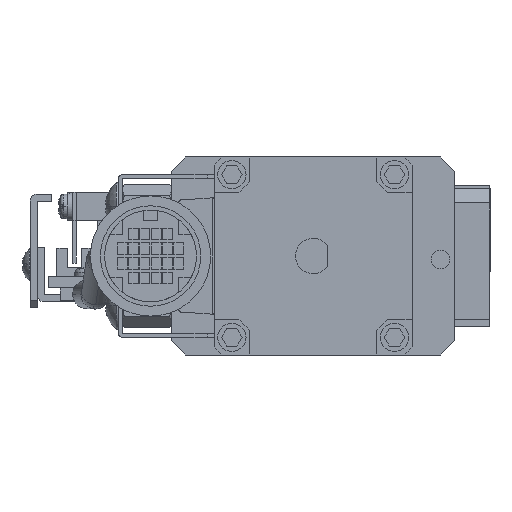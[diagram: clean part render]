
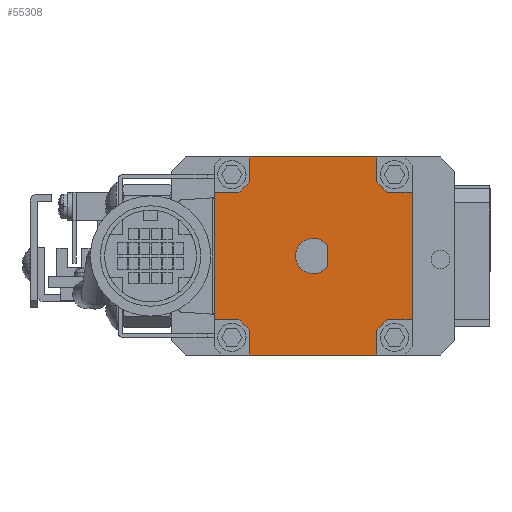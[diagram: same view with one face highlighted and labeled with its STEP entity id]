
A CAD part, left-side view. The second image highlights one B-rep face of the part: STEP entity #55308.
In plain terms, the highlighted planar face has unit normal (-1, 0, 0).
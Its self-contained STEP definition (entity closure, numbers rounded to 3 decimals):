
#565 = ORIENTED_EDGE ( 'NONE', *, *, #42193, .T. ) ;
#1181 = DIRECTION ( 'NONE',  ( 0., 0., -1. ) ) ;
#2111 = CARTESIAN_POINT ( 'NONE',  ( -38.752, 11., 125.561 ) ) ;
#3567 = VERTEX_POINT ( 'NONE', #60114 ) ;
#3725 = VERTEX_POINT ( 'NONE', #62732 ) ;
#4233 = EDGE_CURVE ( 'NONE', #48492, #14182, #49712, .T. ) ;
#4567 = DIRECTION ( 'NONE',  ( 0., 0., -1. ) ) ;
#5754 = ORIENTED_EDGE ( 'NONE', *, *, #55662, .T. ) ;
#5968 = LINE ( 'NONE', #31386, #9881 ) ;
#6390 = CARTESIAN_POINT ( 'NONE',  ( -38.752, 11., 143.561 ) ) ;
#7058 = DIRECTION ( 'NONE',  ( 0., 0.745, 0.667 ) ) ;
#7238 = DIRECTION ( 'NONE',  ( 0., 0., -1. ) ) ;
#7429 = EDGE_CURVE ( 'NONE', #36319, #32231, #36216, .T. ) ;
#7688 = AXIS2_PLACEMENT_3D ( 'NONE', #15703, #30941, #61936 ) ;
#8156 = CARTESIAN_POINT ( 'NONE',  ( -38.752, 35.5, 143.561 ) ) ;
#8297 = DIRECTION ( 'NONE',  ( 0., -1., 0. ) ) ;
#8646 = CARTESIAN_POINT ( 'NONE',  ( -38.752, 16., 120.561 ) ) ;
#9190 = ORIENTED_EDGE ( 'NONE', *, *, #23213, .F. ) ;
#9879 = CARTESIAN_POINT ( 'NONE',  ( -38.752, 23., 136.061 ) ) ;
#9881 = VECTOR ( 'NONE', #1181, 1000. ) ;
#10684 = LINE ( 'NONE', #15477, #25741 ) ;
#11368 = EDGE_LOOP ( 'NONE', ( #28569, #565, #47234, #9190, #28153, #30904, #48839, #54858, #17471, #5754, #52494, #27003, #54535, #62389, #48260, #40650 ) ) ;
#11944 = CARTESIAN_POINT ( 'NONE',  ( -38.752, 39., 143.561 ) ) ;
#12188 = DIRECTION ( 'NONE',  ( 0., 0., 1. ) ) ;
#12496 = CARTESIAN_POINT ( 'NONE',  ( -38.752, 25., 134.561 ) ) ;
#12557 = LINE ( 'NONE', #54052, #64782 ) ;
#13215 = DIRECTION ( 'NONE',  ( 1., 0., 0. ) ) ;
#13440 = DIRECTION ( 'NONE',  ( 0., 0.667, -0.745 ) ) ;
#13907 = EDGE_CURVE ( 'NONE', #48492, #14182, #35907, .T. ) ;
#14182 = VERTEX_POINT ( 'NONE', #9879 ) ;
#14974 = EDGE_CURVE ( 'NONE', #65564, #26853, #35434, .T. ) ;
#15411 = DIRECTION ( 'NONE',  ( 0., -0.667, 0.745 ) ) ;
#15457 = CIRCLE ( 'NONE', #59288, 19. ) ;
#15477 = CARTESIAN_POINT ( 'NONE',  ( -38.752, 11., 143.561 ) ) ;
#15703 = CARTESIAN_POINT ( 'NONE',  ( -38.752, 54.698, 104.863 ) ) ;
#16143 = VECTOR ( 'NONE', #63130, 1000. ) ;
#16379 = CARTESIAN_POINT ( 'NONE',  ( -38.752, 1.836, 111.397 ) ) ;
#17471 = ORIENTED_EDGE ( 'NONE', *, *, #56593, .T. ) ;
#17912 = CARTESIAN_POINT ( 'NONE',  ( -38.752, 14.5, 125.561 ) ) ;
#18036 = CARTESIAN_POINT ( 'NONE',  ( -38.752, 35.5, 125.561 ) ) ;
#18098 = FACE_BOUND ( 'NONE', #41458, .T. ) ;
#18220 = LINE ( 'NONE', #53232, #36428 ) ;
#18747 = CARTESIAN_POINT ( 'NONE',  ( -38.752, 35.5, 143.561 ) ) ;
#19065 = DIRECTION ( 'NONE',  ( 0., -1., 0. ) ) ;
#20258 = LINE ( 'NONE', #32716, #63825 ) ;
#22644 = CARTESIAN_POINT ( 'NONE',  ( -38.752, 39., 125.561 ) ) ;
#22849 = DIRECTION ( 'NONE',  ( 1., 0., 0. ) ) ;
#23213 = EDGE_CURVE ( 'NONE', #3725, #26853, #12557, .T. ) ;
#23943 = EDGE_CURVE ( 'NONE', #35225, #27141, #18220, .T. ) ;
#24081 = DIRECTION ( 'NONE',  ( 0., 1., 0. ) ) ;
#24202 = EDGE_CURVE ( 'NONE', #38849, #27141, #34849, .T. ) ;
#24782 = VECTOR ( 'NONE', #24081, 1000. ) ;
#25741 = VECTOR ( 'NONE', #51270, 1000. ) ;
#26853 = VERTEX_POINT ( 'NONE', #29742 ) ;
#27003 = ORIENTED_EDGE ( 'NONE', *, *, #38316, .F. ) ;
#27141 = VERTEX_POINT ( 'NONE', #2111 ) ;
#27215 = EDGE_CURVE ( 'NONE', #49474, #61655, #15457, .T. ) ;
#28153 = ORIENTED_EDGE ( 'NONE', *, *, #46755, .T. ) ;
#28499 = DIRECTION ( 'NONE',  ( 0., 1., 0. ) ) ;
#28569 = ORIENTED_EDGE ( 'NONE', *, *, #60882, .T. ) ;
#28629 = EDGE_CURVE ( 'NONE', #61655, #47829, #64002, .T. ) ;
#28913 = CARTESIAN_POINT ( 'NONE',  ( -38.752, 39., 125.561 ) ) ;
#29742 = CARTESIAN_POINT ( 'NONE',  ( -38.752, 16., 148.561 ) ) ;
#30904 = ORIENTED_EDGE ( 'NONE', *, *, #27215, .T. ) ;
#30941 = DIRECTION ( 'NONE',  ( 1., 0., 0. ) ) ;
#31386 = CARTESIAN_POINT ( 'NONE',  ( -38.752, 34., 148.561 ) ) ;
#32231 = VERTEX_POINT ( 'NONE', #50734 ) ;
#32716 = CARTESIAN_POINT ( 'NONE',  ( -38.752, 39., 125.561 ) ) ;
#33142 = DIRECTION ( 'NONE',  ( 0., -1., 0. ) ) ;
#33460 = CARTESIAN_POINT ( 'NONE',  ( -38.752, 23., 133.061 ) ) ;
#34335 = VERTEX_POINT ( 'NONE', #48579 ) ;
#34849 = LINE ( 'NONE', #49360, #41933 ) ;
#35100 = VERTEX_POINT ( 'NONE', #40849 ) ;
#35225 = VERTEX_POINT ( 'NONE', #6390 ) ;
#35434 = LINE ( 'NONE', #39121, #53671 ) ;
#35907 = CIRCLE ( 'NONE', #65491, 2.5 ) ;
#36216 = LINE ( 'NONE', #47519, #53627 ) ;
#36319 = VERTEX_POINT ( 'NONE', #8646 ) ;
#36428 = VECTOR ( 'NONE', #7238, 1000. ) ;
#37660 = DIRECTION ( 'NONE',  ( 1., 0., 0. ) ) ;
#38316 = EDGE_CURVE ( 'NONE', #36319, #35100, #61188, .T. ) ;
#38849 = VERTEX_POINT ( 'NONE', #17912 ) ;
#39121 = CARTESIAN_POINT ( 'NONE',  ( -38.752, 16., 145.061 ) ) ;
#39133 = VERTEX_POINT ( 'NONE', #18036 ) ;
#39897 = CIRCLE ( 'NONE', #50793, 19. ) ;
#40266 = VECTOR ( 'NONE', #51146, 1000. ) ;
#40382 = CARTESIAN_POINT ( 'NONE',  ( -38.752, 48.164, 111.397 ) ) ;
#40650 = ORIENTED_EDGE ( 'NONE', *, *, #23943, .F. ) ;
#40849 = CARTESIAN_POINT ( 'NONE',  ( -38.752, 34., 120.561 ) ) ;
#41458 = EDGE_LOOP ( 'NONE', ( #41610, #56921 ) ) ;
#41610 = ORIENTED_EDGE ( 'NONE', *, *, #4233, .F. ) ;
#41933 = VECTOR ( 'NONE', #19065, 1000. ) ;
#42193 = EDGE_CURVE ( 'NONE', #34335, #65564, #61746, .T. ) ;
#45621 = AXIS2_PLACEMENT_3D ( 'NONE', #59180, #13215, #13440 ) ;
#46599 = VECTOR ( 'NONE', #28499, 1000. ) ;
#46755 = EDGE_CURVE ( 'NONE', #3725, #49474, #5968, .T. ) ;
#47234 = ORIENTED_EDGE ( 'NONE', *, *, #14974, .T. ) ;
#47519 = CARTESIAN_POINT ( 'NONE',  ( -38.752, 16., 120.561 ) ) ;
#47776 = LINE ( 'NONE', #50328, #58883 ) ;
#47829 = VERTEX_POINT ( 'NONE', #11944 ) ;
#48260 = ORIENTED_EDGE ( 'NONE', *, *, #24202, .T. ) ;
#48492 = VERTEX_POINT ( 'NONE', #33460 ) ;
#48579 = CARTESIAN_POINT ( 'NONE',  ( -38.752, 14.5, 143.561 ) ) ;
#48839 = ORIENTED_EDGE ( 'NONE', *, *, #28629, .T. ) ;
#49360 = CARTESIAN_POINT ( 'NONE',  ( -38.752, 14.5, 125.561 ) ) ;
#49474 = VERTEX_POINT ( 'NONE', #52698 ) ;
#49712 = LINE ( 'NONE', #62016, #40266 ) ;
#50132 = DIRECTION ( 'NONE',  ( 1., 0., 0. ) ) ;
#50328 = CARTESIAN_POINT ( 'NONE',  ( -38.752, 34., 124.061 ) ) ;
#50734 = CARTESIAN_POINT ( 'NONE',  ( -38.752, 16., 124.061 ) ) ;
#50793 = AXIS2_PLACEMENT_3D ( 'NONE', #16379, #51728, #7058 ) ;
#50855 = PLANE ( 'NONE',  #7688 ) ;
#51146 = DIRECTION ( 'NONE',  ( 0., 0., 1. ) ) ;
#51270 = DIRECTION ( 'NONE',  ( 0., 1., 0. ) ) ;
#51728 = DIRECTION ( 'NONE',  ( 1., 0., 0. ) ) ;
#52470 = LINE ( 'NONE', #22644, #16143 ) ;
#52494 = ORIENTED_EDGE ( 'NONE', *, *, #61690, .T. ) ;
#52683 = DIRECTION ( 'NONE',  ( 0., -0.745, -0.667 ) ) ;
#52698 = CARTESIAN_POINT ( 'NONE',  ( -38.752, 34., 145.061 ) ) ;
#53232 = CARTESIAN_POINT ( 'NONE',  ( -38.752, 11., 143.561 ) ) ;
#53627 = VECTOR ( 'NONE', #12188, 1000. ) ;
#53671 = VECTOR ( 'NONE', #64584, 1000. ) ;
#54052 = CARTESIAN_POINT ( 'NONE',  ( -38.752, 34., 148.561 ) ) ;
#54535 = ORIENTED_EDGE ( 'NONE', *, *, #7429, .T. ) ;
#54858 = ORIENTED_EDGE ( 'NONE', *, *, #62100, .F. ) ;
#55308 = ADVANCED_FACE ( 'NONE', ( #58454, #18098 ), #50855, .F. ) ;
#55662 = EDGE_CURVE ( 'NONE', #39133, #3567, #63173, .T. ) ;
#56269 = CARTESIAN_POINT ( 'NONE',  ( -38.752, 16., 145.061 ) ) ;
#56593 = EDGE_CURVE ( 'NONE', #61571, #39133, #20258, .T. ) ;
#56921 = ORIENTED_EDGE ( 'NONE', *, *, #13907, .T. ) ;
#58454 = FACE_OUTER_BOUND ( 'NONE', #11368, .T. ) ;
#58684 = DIRECTION ( 'NONE',  ( 0., 1., 0. ) ) ;
#58883 = VECTOR ( 'NONE', #4567, 1000. ) ;
#59180 = CARTESIAN_POINT ( 'NONE',  ( -38.752, 1.836, 157.725 ) ) ;
#59288 = AXIS2_PLACEMENT_3D ( 'NONE', #63103, #37660, #52683 ) ;
#60114 = CARTESIAN_POINT ( 'NONE',  ( -38.752, 34., 124.061 ) ) ;
#60882 = EDGE_CURVE ( 'NONE', #35225, #34335, #10684, .T. ) ;
#61101 = EDGE_CURVE ( 'NONE', #32231, #38849, #39897, .T. ) ;
#61188 = LINE ( 'NONE', #65231, #24782 ) ;
#61571 = VERTEX_POINT ( 'NONE', #28913 ) ;
#61655 = VERTEX_POINT ( 'NONE', #8156 ) ;
#61690 = EDGE_CURVE ( 'NONE', #3567, #35100, #47776, .T. ) ;
#61746 = CIRCLE ( 'NONE', #45621, 19. ) ;
#61936 = DIRECTION ( 'NONE',  ( 0., 0., 1. ) ) ;
#62016 = CARTESIAN_POINT ( 'NONE',  ( -38.752, 23., 133.061 ) ) ;
#62100 = EDGE_CURVE ( 'NONE', #61571, #47829, #52470, .T. ) ;
#62389 = ORIENTED_EDGE ( 'NONE', *, *, #61101, .T. ) ;
#62732 = CARTESIAN_POINT ( 'NONE',  ( -38.752, 34., 148.561 ) ) ;
#63103 = CARTESIAN_POINT ( 'NONE',  ( -38.752, 48.164, 157.725 ) ) ;
#63130 = DIRECTION ( 'NONE',  ( 0., 0., 1. ) ) ;
#63173 = CIRCLE ( 'NONE', #63202, 19. ) ;
#63202 = AXIS2_PLACEMENT_3D ( 'NONE', #40382, #50132, #15411 ) ;
#63825 = VECTOR ( 'NONE', #33142, 1000. ) ;
#64002 = LINE ( 'NONE', #18747, #46599 ) ;
#64584 = DIRECTION ( 'NONE',  ( 0., 0., 1. ) ) ;
#64782 = VECTOR ( 'NONE', #8297, 1000. ) ;
#65231 = CARTESIAN_POINT ( 'NONE',  ( -38.752, 16., 120.561 ) ) ;
#65491 = AXIS2_PLACEMENT_3D ( 'NONE', #12496, #22849, #58684 ) ;
#65564 = VERTEX_POINT ( 'NONE', #56269 ) ;
